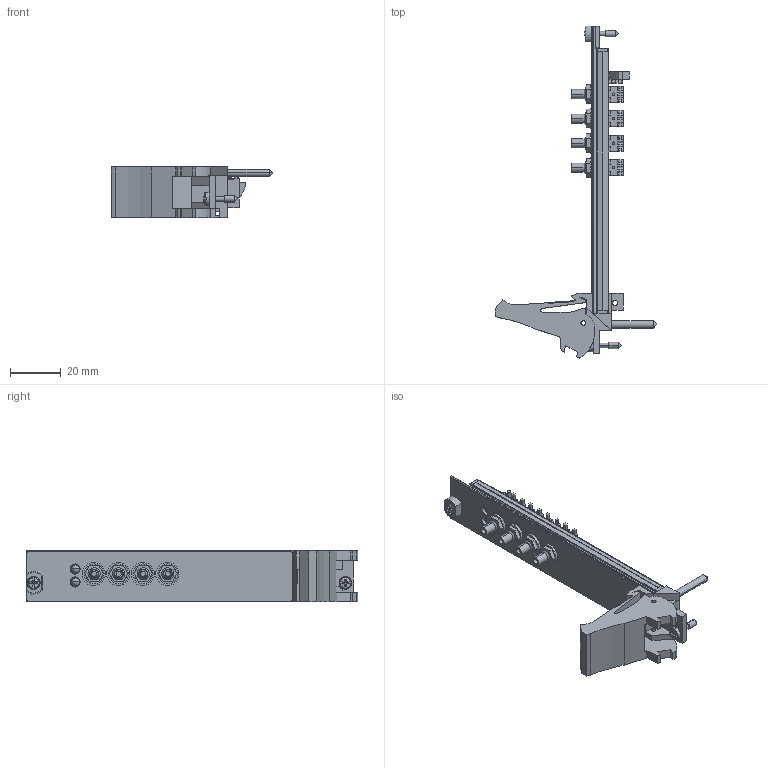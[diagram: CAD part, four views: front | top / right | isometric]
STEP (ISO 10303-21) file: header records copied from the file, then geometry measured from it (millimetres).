
FILE_DESCRIPTION((''),'2;1');
FILE_NAME('CU_PXIE-5442','2009-12-18T',('jjorden'),(''),'PRO/ENGINEER BY PARAMETRIC TECHNOLOGY CORPORATION, 2006080','PRO/ENGINEER BY PARAMETRIC TECHNOLOGY CORPORATION, 2006080','');
FILE_SCHEMA(('CONFIG_CONTROL_DESIGN'));
Length unit declared in the file: inch
Products named in the file (1): CU_PXIE-5442
Bounding box: 63.53 x 130.51 x 20.31 mm (x, y, z)
Volume: 17788.1 mm3; surface area: 18302.7 mm2
Topology: 3 solids, 3 shells, 870 faces, 2398 edges, 1523 vertices
Faces by surface type: plane 626, cylinder 206, cone 26, sphere 8, torus 4
Entity records: 27745 total; most frequent: CARTESIAN_POINT 5070, ORIENTED_EDGE 4780, DIRECTION 4653, EDGE_CURVE 2390, VECTOR 1805, LINE 1805, VERTEX_POINT 1523, AXIS2_PLACEMENT_3D 1424
